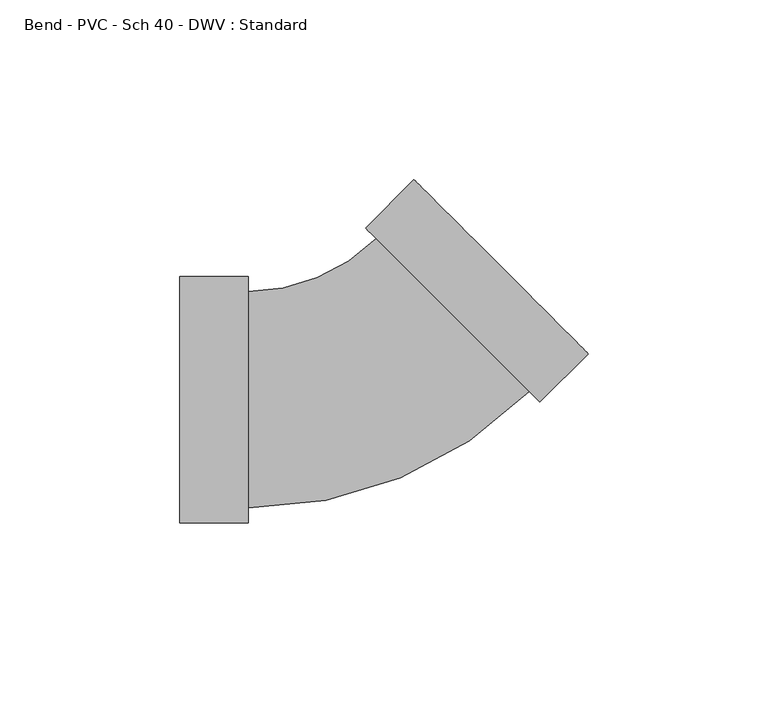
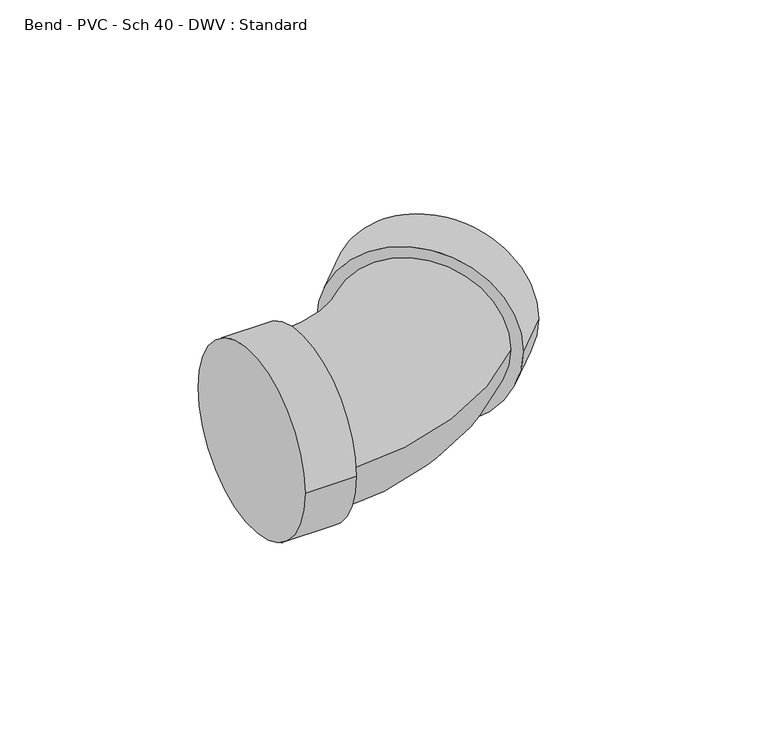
"""IFC4 building model written with IfcOpenShell, lengths in millimetres: pipe fitting geometry, Bend - PVC - Sch 40 - DWV : Standard."""

from ifc_helpers import new_model, si_unit, point, frame, origin, place, context, project, spatial, circle_curve, ellipse_curve, trimmed, source, transform, mapped, element, save
from ifc_brep_helpers import plane_surface, cylinder_surface, revolved_surface, advanced_brep


def bend_pvc_sch_40_dwv_standard_24e7f7a5(model_context):
    return source(origin(), model_context, "Body", "AdvancedBrep", [
        advanced_brep(
        [(-52.4002, -34.3154, 0.0), (-52.4002, 34.3154, 0.0), (-33.3502, -34.3154, 0.0), (-33.3502, 34.3154, 0.0), (-33.3502, -30.1625, 0.0), (-33.3502, 30.1625, 0.0), (2.2511019, 44.9104084, 0.0), (44.9101131, 2.2569866, 0.0), (47.8468492, -0.6793647, 0.0), (-0.6856342, 47.8467598, 0.0), (61.3163508, 12.791902, 0.0), (12.7838674, 61.3180265, 0.0)],
        [
            (0, 1, circle_curve(frame((-52.4002, 0.0, 0.0), z_axis=(-1.0, 0.0, 0.0), x_axis=(0.0, 1.0, 0.0)), 34.3154)),
            (1, 0, circle_curve(frame((-52.4002, 0.0, 0.0), z_axis=(-1.0, 0.0, 0.0), x_axis=(0.0, 1.0, 0.0)), 34.3154)),
            (2, 3, circle_curve(frame((-33.3502, 0.0, 0.0), z_axis=(1.0, 0.0, 0.0), x_axis=(0.0, 1.0, 0.0)), 34.3154)),
            (3, 2, circle_curve(frame((-33.3502, 0.0, 0.0), z_axis=(1.0, 0.0, 0.0), x_axis=(0.0, 1.0, 0.0)), 34.3154)),
            (4, 5, circle_curve(frame((-33.3502, 0.0, 0.0), z_axis=(-1.0, 0.0, 0.0), x_axis=(0.0, 1.0, 0.0)), 30.1625)),
            (5, 4, circle_curve(frame((-33.3502, 0.0, 0.0), z_axis=(-1.0, 0.0, 0.0), x_axis=(0.0, 1.0, 0.0)), 30.1625)),
            (0, 2),
            (3, 1),
            (6, 5, circle_curve(frame((-33.3502, 80.5070457, 0.0), z_axis=(0.0, 0.0, -1.0), x_axis=(0.0, -1.0, 0.0)), 50.3445457)),
            (4, 7, circle_curve(frame((-33.3502, 80.5070457, 0.0), z_axis=(0.0, 0.0, 1.0), x_axis=(0.0, -1.0, 0.0)), 110.6695457)),
            (7, 6, circle_curve(frame((23.5806075, 23.5836975, 0.0), z_axis=(-0.7070604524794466, -0.7071531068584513, 0.0), x_axis=(-0.7071531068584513, 0.7070604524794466, 0.0)), 30.1625)),
            (6, 7, circle_curve(frame((23.5806075, 23.5836975, 0.0), z_axis=(-0.7070604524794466, -0.7071531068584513, 0.0), x_axis=(-0.7071531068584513, 0.7070604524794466, 0.0)), 30.1625)),
            (8, 9, circle_curve(frame((23.5806075, 23.5836975, 0.0), z_axis=(-0.707060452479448, -0.70715310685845, 0.0), x_axis=(-0.7071531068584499, 0.7070604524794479, 0.0)), 34.3154)),
            (9, 8, circle_curve(frame((23.5806075, 23.5836975, 0.0), z_axis=(-0.707060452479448, -0.70715310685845, 0.0), x_axis=(-0.7071531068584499, 0.7070604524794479, 0.0)), 34.3154)),
            (10, 11, circle_curve(frame((37.0501091, 37.0549642, 0.0), z_axis=(0.707060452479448, 0.70715310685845, 0.0), x_axis=(-0.7071531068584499, 0.7070604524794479, 0.0)), 34.3154)),
            (11, 10, circle_curve(frame((37.0501091, 37.0549642, 0.0), z_axis=(0.707060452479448, 0.70715310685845, 0.0), x_axis=(-0.7071531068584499, 0.7070604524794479, 0.0)), 34.3154)),
            (8, 10),
            (11, 9),
        ],
        [
            plane_surface(frame((-52.4002, 0.0, 0.0), z_axis=(-1.0, 0.0, 0.0), x_axis=(0.0, 0.0, 1.0))),
            plane_surface(frame((-33.3502, 0.0, 0.0), z_axis=(1.0, 0.0, 0.0), x_axis=(0.0, 0.0, 1.0))),
            cylinder_surface(frame((-52.4002, 0.0, 0.0), z_axis=(-1.0, 0.0, 0.0), x_axis=(0.0, 1.0, 0.0)), 34.3154),
            revolved_surface(trimmed(ellipse_curve(frame((-33.3502, 0.0, 0.0), z_axis=(-1.0, 0.0, 0.0), x_axis=(0.0, 1.0, 0.0)), 30.1625, 30.1625), [point((-33.3502, -30.1625, 0.0))], [point((-33.3502, 30.1625, 0.0))], True, "CARTESIAN"), (-33.3502, 80.5070457, 0.0), (0.0, 0.0, 1.0)),
            revolved_surface(trimmed(ellipse_curve(frame((-33.3502, 0.0, 0.0), z_axis=(-1.0, 0.0, 0.0), x_axis=(0.0, 1.0, 0.0)), 30.1625, 30.1625), [point((-33.3502, 30.1625, 0.0))], [point((-33.3502, -30.1625, 0.0))], True, "CARTESIAN"), (-33.3502, 80.5070457, 0.0), (0.0, 0.0, 1.0)),
            plane_surface(frame((23.5806075, 23.5836975, 0.0), z_axis=(-0.707060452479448, -0.70715310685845, 0.0), x_axis=(0.0, 0.0, 1.0))),
            plane_surface(frame((37.0501091, 37.0549642, 0.0), z_axis=(0.707060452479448, 0.70715310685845, 0.0), x_axis=(0.0, 0.0, 1.0))),
            cylinder_surface(frame((23.5806075, 23.5836975, 0.0), z_axis=(-0.7070604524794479, -0.7071531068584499, 0.0), x_axis=(-0.7071531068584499, 0.7070604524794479, 0.0)), 34.3154),
        ],
        [
            (0, [[1, 2]]),
            (1, [[3, 4], [5, 6]]),
            (2, [[-1, 7, -4, 8]]),
            (2, [[-2, -8, -3, -7]]),
            (3, [[9, -5, 10, 11]]),
            (4, [[-9, 12, -10, -6]]),
            (5, [[13, 14], [-11, -12]]),
            (6, [[15, 16]]),
            (7, [[-13, 17, -16, 18]]),
            (7, [[-14, -18, -15, -17]]),
        ],
    ),
    ])


if __name__ == "__main__":
    model = new_model("IFC4")
    model_context = context("Model", 3, world=origin())
    ifc_project = project(units=[si_unit("LENGTHUNIT", "METRE", prefix="MILLI")], contexts=[model_context])
    site = spatial("IfcSite", under=ifc_project)
    building = spatial("IfcBuilding", under=site)
    placement = place(None, origin())
    bend_pvc_sch_40_dwv_standard_shape = bend_pvc_sch_40_dwv_standard_24e7f7a5(model_context)
    element("IfcPipeFitting", 1, ObjectType="Bend - PVC - Sch 40 - DWV : Standard", at=placement, inside=building, context=model_context, shape_type="MappedRepresentation", body=[
        mapped(bend_pvc_sch_40_dwv_standard_shape, transform((0.0, 0.0, 0.0), x_axis=(1.0, 0.0, 0.0), y_axis=(0.0, 1.0, 0.0), z_axis=(0.0, 0.0, 1.0))),
    ])
    save(model, "model.ifc")
